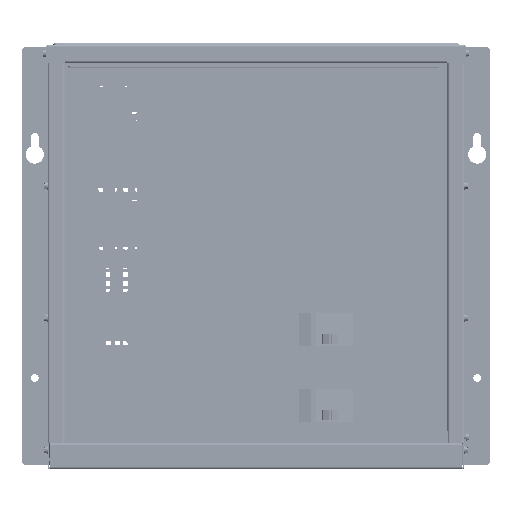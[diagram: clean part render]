
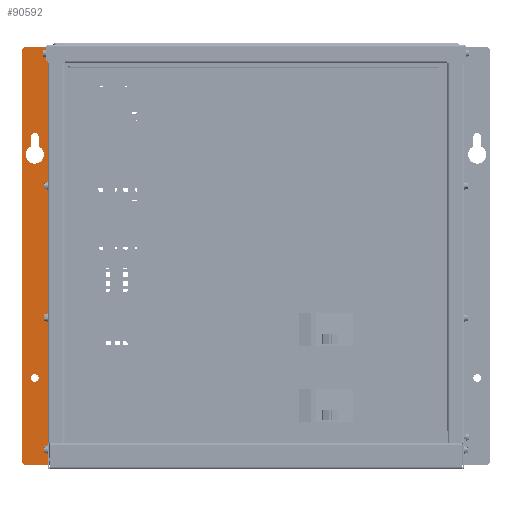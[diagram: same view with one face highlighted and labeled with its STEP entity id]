
A CAD part, top view. The second image highlights one B-rep face of the part: STEP entity #90592.
In plain terms, the highlighted planar face has unit normal (0, 0, 1).
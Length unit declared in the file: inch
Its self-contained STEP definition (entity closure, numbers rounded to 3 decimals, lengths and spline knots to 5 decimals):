
#8892 = VERTEX_POINT ( 'NONE', #14104 ) ;
#14104 = CARTESIAN_POINT ( 'NONE',  ( 9.312, 5., -0.438 ) ) ;
#76374 = LINE ( 'NONE', #79087, #76390 ) ;
#76390 = VECTOR ( 'NONE', #79111, 39.37008 ) ;
#76404 = LINE ( 'NONE', #79148, #76422 ) ;
#76422 = VECTOR ( 'NONE', #79166, 39.37008 ) ;
#76577 = LINE ( 'NONE', #79439, #76584 ) ;
#76584 = VECTOR ( 'NONE', #79454, 39.37008 ) ;
#76851 = LINE ( 'NONE', #79960, #76871 ) ;
#76871 = VECTOR ( 'NONE', #79977, 39.37008 ) ;
#76891 = CIRCLE ( 'NONE', #382306, 0.156 ) ;
#76914 = LINE ( 'NONE', #80077, #76932 ) ;
#76932 = VECTOR ( 'NONE', #80094, 39.37008 ) ;
#76952 = CIRCLE ( 'NONE', #382309, 0.375 ) ;
#79087 = CARTESIAN_POINT ( 'NONE',  ( 8.5825, -8.715, -0.438 ) ) ;
#79111 = DIRECTION ( 'NONE',  ( 0., 1., 0. ) ) ;
#79148 = CARTESIAN_POINT ( 'NONE',  ( 9.6875, 8.61246, -0.438 ) ) ;
#79166 = DIRECTION ( 'NONE',  ( 1., 0., 0. ) ) ;
#79439 = CARTESIAN_POINT ( 'NONE',  ( 8.5625, -8.715, -0.438 ) ) ;
#79454 = DIRECTION ( 'NONE',  ( -1., 0., 0. ) ) ;
#79960 = CARTESIAN_POINT ( 'NONE',  ( 9.312, -5., -0.438 ) ) ;
#79977 = DIRECTION ( 'NONE',  ( 0., 1., 0. ) ) ;
#80040 = CARTESIAN_POINT ( 'NONE',  ( 9.156, -5., -0.438 ) ) ;
#80044 = DIRECTION ( 'NONE',  ( 0., 0., 1. ) ) ;
#80047 = DIRECTION ( 'NONE',  ( 1., 0., 0. ) ) ;
#80077 = CARTESIAN_POINT ( 'NONE',  ( 9., -5., -0.438 ) ) ;
#80094 = DIRECTION ( 'NONE',  ( 0., -1., 0. ) ) ;
#80159 = CARTESIAN_POINT ( 'NONE',  ( 9.156, -4.25, -0.438 ) ) ;
#80162 = DIRECTION ( 'NONE',  ( 0., 0., 1. ) ) ;
#80166 = DIRECTION ( 'NONE',  ( 1., 0., 0. ) ) ;
#80210 = CARTESIAN_POINT ( 'NONE',  ( 9.156, 5., -0.438 ) ) ;
#80212 = DIRECTION ( 'NONE',  ( 0., 0., 1. ) ) ;
#80216 = DIRECTION ( 'NONE',  ( 1., 0., 0. ) ) ;
#80232 = CARTESIAN_POINT ( 'NONE',  ( 9.6875, -8.715, -0.438 ) ) ;
#80252 = DIRECTION ( 'NONE',  ( 0., -1., 0. ) ) ;
#80278 = CARTESIAN_POINT ( 'NONE',  ( 9.6875, 8.51246, -0.438 ) ) ;
#80297 = DIRECTION ( 'NONE',  ( -0.707, 0.707, 0. ) ) ;
#80332 = CARTESIAN_POINT ( 'NONE',  ( 9.5875, -8.715, -0.438 ) ) ;
#80342 = DIRECTION ( 'NONE',  ( 0.707, 0.707, 0. ) ) ;
#82074 = CIRCLE ( 'NONE', #382312, 0.156 ) ;
#82113 = LINE ( 'NONE', #80232, #82129 ) ;
#82129 = VECTOR ( 'NONE', #80252, 39.37008 ) ;
#82151 = LINE ( 'NONE', #80278, #82168 ) ;
#82168 = VECTOR ( 'NONE', #80297, 39.37008 ) ;
#82198 = LINE ( 'NONE', #80332, #82206 ) ;
#82206 = VECTOR ( 'NONE', #80342, 39.37008 ) ;
#90592 = ADVANCED_FACE ( 'NONE', ( #348794, #348817, #348824 ), #345638, .F. ) ;
#182474 = AXIS2_PLACEMENT_3D ( 'NONE', #345632, #345629, #345645 ) ;
#223575 = VERTEX_POINT ( 'NONE', #229238 ) ;
#223580 = VERTEX_POINT ( 'NONE', #229247 ) ;
#223604 = VERTEX_POINT ( 'NONE', #229313 ) ;
#223613 = VERTEX_POINT ( 'NONE', #229339 ) ;
#223627 = VERTEX_POINT ( 'NONE', #229368 ) ;
#223631 = VERTEX_POINT ( 'NONE', #229382 ) ;
#223637 = VERTEX_POINT ( 'NONE', #229393 ) ;
#223664 = VERTEX_POINT ( 'NONE', #229459 ) ;
#223674 = VERTEX_POINT ( 'NONE', #275309 ) ;
#223678 = VERTEX_POINT ( 'NONE', #275318 ) ;
#229238 = CARTESIAN_POINT ( 'NONE',  ( 9.5875, 8.61246, -0.438 ) ) ;
#229247 = CARTESIAN_POINT ( 'NONE',  ( 8.5825, -8.715, -0.438 ) ) ;
#229313 = CARTESIAN_POINT ( 'NONE',  ( 8.5825, 8.61246, -0.438 ) ) ;
#229339 = CARTESIAN_POINT ( 'NONE',  ( 9.312, -5., -0.438 ) ) ;
#229368 = CARTESIAN_POINT ( 'NONE',  ( 9.5875, -8.715, -0.438 ) ) ;
#229382 = CARTESIAN_POINT ( 'NONE',  ( 9., -5., -0.438 ) ) ;
#229393 = CARTESIAN_POINT ( 'NONE',  ( 9.312, -4.59101, -0.438 ) ) ;
#229459 = CARTESIAN_POINT ( 'NONE',  ( 9., -4.59101, -0.438 ) ) ;
#245711 = EDGE_LOOP ( 'NONE', ( #254315, #254320, #254325, #254330 ) ) ;
#245733 = EDGE_LOOP ( 'NONE', ( #254336 ) ) ;
#245755 = EDGE_LOOP ( 'NONE', ( #254341, #254345, #254349, #254354, #254359, #254365 ) ) ;
#254315 = ORIENTED_EDGE ( 'NONE', *, *, #282889, .F. ) ;
#254320 = ORIENTED_EDGE ( 'NONE', *, *, #282907, .F. ) ;
#254325 = ORIENTED_EDGE ( 'NONE', *, *, #282926, .F. ) ;
#254330 = ORIENTED_EDGE ( 'NONE', *, *, #282945, .F. ) ;
#254336 = ORIENTED_EDGE ( 'NONE', *, *, #282964, .F. ) ;
#254341 = ORIENTED_EDGE ( 'NONE', *, *, #282983, .F. ) ;
#254345 = ORIENTED_EDGE ( 'NONE', *, *, #283003, .T. ) ;
#254349 = ORIENTED_EDGE ( 'NONE', *, *, #282625, .F. ) ;
#254354 = ORIENTED_EDGE ( 'NONE', *, *, #282608, .F. ) ;
#254359 = ORIENTED_EDGE ( 'NONE', *, *, #282720, .F. ) ;
#254365 = ORIENTED_EDGE ( 'NONE', *, *, #283021, .T. ) ;
#275309 = CARTESIAN_POINT ( 'NONE',  ( 9.6875, 8.51246, -0.438 ) ) ;
#275318 = CARTESIAN_POINT ( 'NONE',  ( 9.6875, -8.615, -0.438 ) ) ;
#282608 = EDGE_CURVE ( 'NONE', #223580, #223604, #76374, .T. ) ;
#282625 = EDGE_CURVE ( 'NONE', #223604, #223575, #76404, .T. ) ;
#282720 = EDGE_CURVE ( 'NONE', #223627, #223580, #76577, .T. ) ;
#282889 = EDGE_CURVE ( 'NONE', #223613, #223637, #76851, .T. ) ;
#282907 = EDGE_CURVE ( 'NONE', #223631, #223613, #76891, .T. ) ;
#282926 = EDGE_CURVE ( 'NONE', #223664, #223631, #76914, .T. ) ;
#282945 = EDGE_CURVE ( 'NONE', #223637, #223664, #76952, .T. ) ;
#282964 = EDGE_CURVE ( 'NONE', #8892, #8892, #82074, .T. ) ;
#282983 = EDGE_CURVE ( 'NONE', #223674, #223678, #82113, .T. ) ;
#283003 = EDGE_CURVE ( 'NONE', #223674, #223575, #82151, .T. ) ;
#283021 = EDGE_CURVE ( 'NONE', #223627, #223678, #82198, .T. ) ;
#345629 = DIRECTION ( 'NONE',  ( 0., 0., -1. ) ) ;
#345632 = CARTESIAN_POINT ( 'NONE',  ( 8.5625, -8.715, -0.438 ) ) ;
#345638 = PLANE ( 'NONE',  #182474 ) ;
#345645 = DIRECTION ( 'NONE',  ( 1., 0., 0. ) ) ;
#348794 = FACE_BOUND ( 'NONE', #245711, .T. ) ;
#348817 = FACE_BOUND ( 'NONE', #245733, .T. ) ;
#348824 = FACE_OUTER_BOUND ( 'NONE', #245755, .T. ) ;
#382306 = AXIS2_PLACEMENT_3D ( 'NONE', #80040, #80044, #80047 ) ;
#382309 = AXIS2_PLACEMENT_3D ( 'NONE', #80159, #80162, #80166 ) ;
#382312 = AXIS2_PLACEMENT_3D ( 'NONE', #80210, #80212, #80216 ) ;
